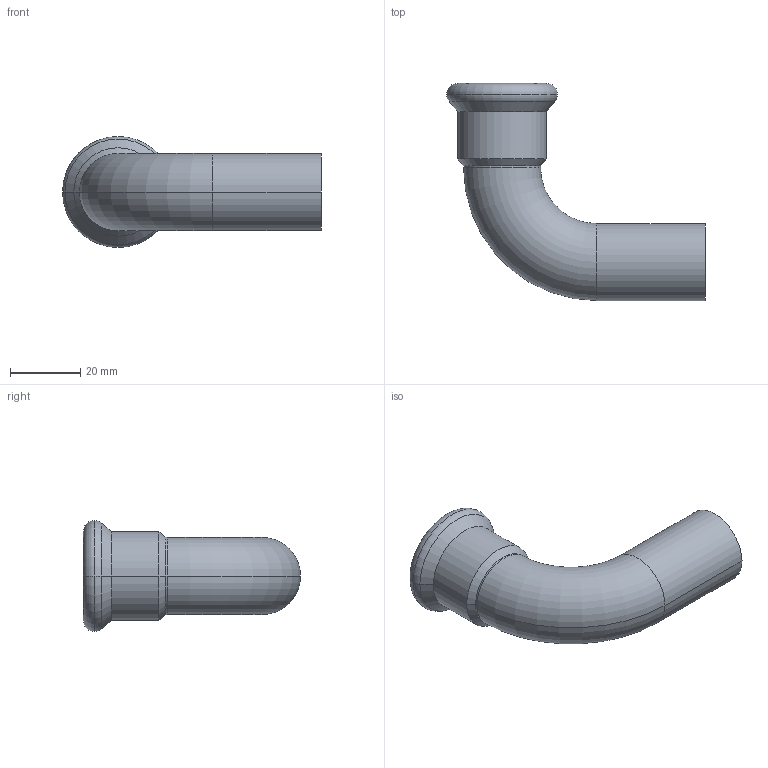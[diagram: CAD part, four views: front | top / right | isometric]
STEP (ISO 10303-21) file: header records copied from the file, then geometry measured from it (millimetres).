
FILE_DESCRIPTION(('CoCreate Modeling STEP Export'),'2;1');
FILE_NAME('C1411 22x22.stp','2014-11-07T16:53:29',(''),(''),'CoCreate Modeling STEP processor for AP214 (Solid Model)','CoCreate Modeling 17.00A 17-Jun-2010 (C) Parametric Technology GmbH','');
FILE_SCHEMA(('AUTOMOTIVE_DESIGN { 1 0 10303 214 1 1 1 1 }'));
Length unit declared in the file: millimetre
Products named in the file (2): C1411_22x22
Assembly tree (1 placements, depth 2):
  C1411_22x22
    C1411_22x22
Bounding box: 73.95 x 62 x 31.7 mm (x, y, z)
Volume: 11451.3 mm3; surface area: 13808.6 mm2
Topology: 1 solids, 1 shells, 30 faces, 64 edges, 38 vertices
Faces by surface type: cylinder 14, torus 8, plane 4, cone 4
Entity records: 706 total; most frequent: ORIENTED_EDGE 128, DIRECTION 108, CARTESIAN_POINT 101, EDGE_CURVE 64, AXIS2_PLACEMENT_3D 45, VERTEX_POINT 38, EDGE_LOOP 34, FACE_OUTER_BOUND 30
